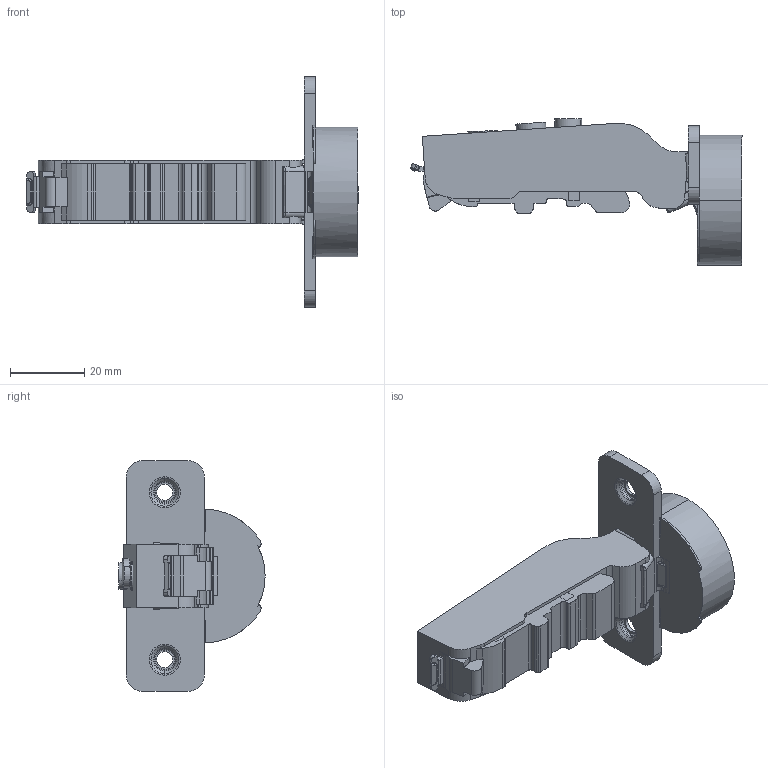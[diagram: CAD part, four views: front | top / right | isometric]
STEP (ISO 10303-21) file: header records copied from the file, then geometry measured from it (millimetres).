
FILE_DESCRIPTION (( 'STEP AP203' ), '1' );
FILE_NAME ('C81A815FAB DTC 3D CLOSE.STEP', '2024-07-25T07:20:35', ( '微软用户' ), ( '微软中国' ), 'SwSTEP 2.0', 'SolidWorks 2021', '' );
FILE_SCHEMA (( 'CONFIG_CONTROL_DESIGN' ));
Length unit declared in the file: millimetre
Products named in the file (1): C81A815FAB DTC 3D CLOSE
Bounding box: 89.24 x 39.29 x 62 mm (x, y, z)
Volume: 38389.7 mm3; surface area: 11424.5 mm2
Topology: 1 solids, 2 shells, 357 faces, 1026 edges, 669 vertices
Faces by surface type: plane 150, cylinder 143, torus 34, bspline 17, cone 13
Entity records: 12865 total; most frequent: CARTESIAN_POINT 3496, ORIENTED_EDGE 2048, DIRECTION 1891, EDGE_CURVE 1024, AXIS2_PLACEMENT_3D 670, VERTEX_POINT 669, VECTOR 551, LINE 551
